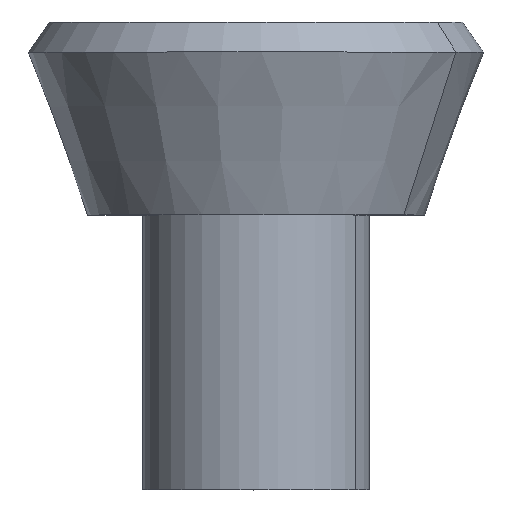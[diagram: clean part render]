
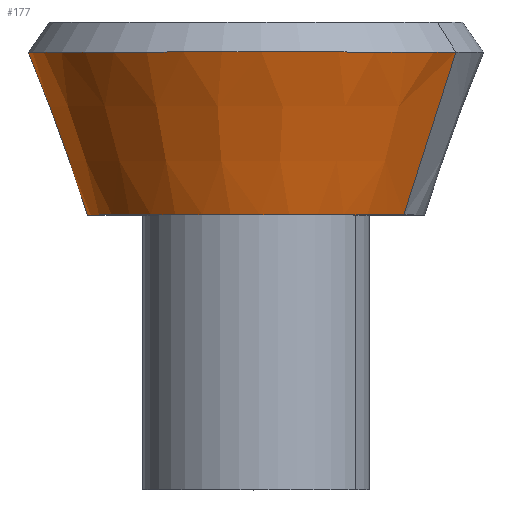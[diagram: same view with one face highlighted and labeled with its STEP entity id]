
A CAD part, top view. The second image highlights one B-rep face of the part: STEP entity #177.
In plain terms, the highlighted conical face has half-angle 20 degrees and reference radius 92 mm.
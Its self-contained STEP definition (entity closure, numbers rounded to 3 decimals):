
#114=CARTESIAN_POINT('Axis2P3D Location',(0.,0.,0.)) ;
#118=CARTESIAN_POINT('Vertex',(80.738,0.,44.107)) ;
#120=CARTESIAN_POINT('Vertex',(-80.738,0.,-44.107)) ;
#147=CARTESIAN_POINT('Axis2P3D Location',(0.,0.,0.)) ;
#152=CARTESIAN_POINT('Line Origine',(94.93,44.431,51.86)) ;
#156=CARTESIAN_POINT('Vertex',(109.122,88.863,59.613)) ;
#159=CARTESIAN_POINT('Axis2P3D Location',(0.,88.863,0.)) ;
#163=CARTESIAN_POINT('Vertex',(-109.122,88.863,-59.613)) ;
#166=CARTESIAN_POINT('Line Origine',(-94.93,44.431,-51.86)) ;
#115=DIRECTION('Axis2P3D Direction',(0.,-1.,0.)) ;
#148=DIRECTION('Axis2P3D Direction',(-0.,1.,-0.)) ;
#149=DIRECTION('Axis2P3D XDirection',(0.878,0.,0.479)) ;
#153=DIRECTION('Vector Direction',(0.3,0.94,0.164)) ;
#160=DIRECTION('Axis2P3D Direction',(0.,1.,-0.)) ;
#167=DIRECTION('Vector Direction',(-0.3,0.94,-0.164)) ;
#116=AXIS2_PLACEMENT_3D('Circle Axis2P3D',#114,#115,$) ;
#150=AXIS2_PLACEMENT_3D('Cone Axis2P3D',#147,#148,#149) ;
#161=AXIS2_PLACEMENT_3D('Circle Axis2P3D',#159,#160,$) ;
#172=ORIENTED_EDGE('',*,*,#122,.F.) ;
#173=ORIENTED_EDGE('',*,*,#158,.T.) ;
#174=ORIENTED_EDGE('',*,*,#165,.T.) ;
#175=ORIENTED_EDGE('',*,*,#170,.F.) ;
#154=VECTOR('Line Direction',#153,1.) ;
#168=VECTOR('Line Direction',#167,1.) ;
#177=ADVANCED_FACE('PartBody',(#176),#151,.T.) ;
#117=CIRCLE('generated circle',#116,92.) ;
#162=CIRCLE('generated circle',#161,124.343) ;
#151=CONICAL_SURFACE('Cone',#150,92.,0.349) ;
#122=EDGE_CURVE('',#119,#121,#117,.T.) ;
#158=EDGE_CURVE('',#119,#157,#155,.T.) ;
#165=EDGE_CURVE('',#157,#164,#162,.F.) ;
#170=EDGE_CURVE('',#121,#164,#169,.T.) ;
#171=EDGE_LOOP('',(#172,#173,#174,#175)) ;
#176=FACE_OUTER_BOUND('',#171,.T.) ;
#155=LINE('Line',#152,#154) ;
#169=LINE('Line',#166,#168) ;
#119=VERTEX_POINT('',#118) ;
#121=VERTEX_POINT('',#120) ;
#157=VERTEX_POINT('',#156) ;
#164=VERTEX_POINT('',#163) ;
